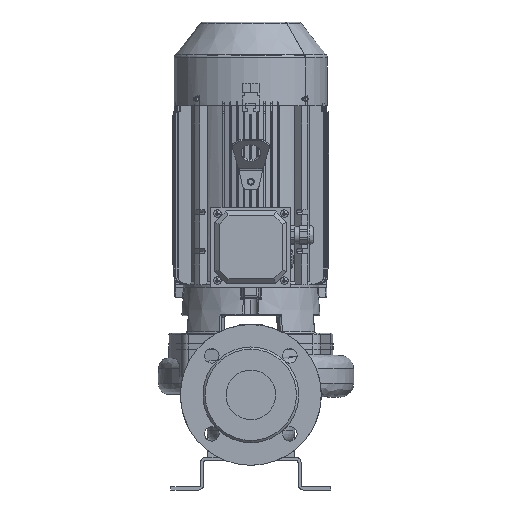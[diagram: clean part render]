
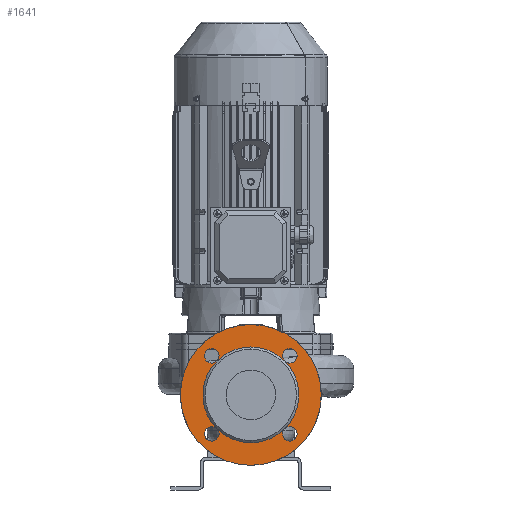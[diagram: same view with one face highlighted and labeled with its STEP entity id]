
A CAD part, front view. The second image highlights one B-rep face of the part: STEP entity #1641.
In plain terms, the highlighted planar face has unit normal (0, -1, 0) as drawn and (0, 1, 0) by its records, which use the part's own axes.
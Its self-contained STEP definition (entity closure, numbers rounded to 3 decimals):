
#1641=ADVANCED_FACE('',(#3239,#3240),#3241,.T.);
#1667=EDGE_CURVE('',#3281,#3282,#3283,.T.);
#1669=EDGE_CURVE('',#3285,#3281,#3286,.T.);
#1671=EDGE_CURVE('',#3288,#3285,#3289,.T.);
#1675=EDGE_CURVE('',#3295,#3296,#3297,.T.);
#1679=EDGE_CURVE('',#3303,#3304,#3305,.T.);
#1683=EDGE_CURVE('',#3311,#3312,#3313,.T.);
#1687=EDGE_CURVE('',#3319,#3320,#3321,.T.);
#1689=EDGE_CURVE('',#3323,#3324,#3325,.T.);
#1881=EDGE_CURVE('',#3324,#3323,#3620,.T.);
#1891=EDGE_CURVE('',#3285,#3319,#3630,.T.);
#1893=EDGE_CURVE('',#3320,#3285,#3632,.T.);
#1895=EDGE_CURVE('',#3281,#3311,#3634,.T.);
#1897=EDGE_CURVE('',#3312,#3281,#3636,.T.);
#1899=EDGE_CURVE('',#3638,#3303,#3639,.T.);
#1901=EDGE_CURVE('',#3304,#3638,#3641,.T.);
#1903=EDGE_CURVE('',#3643,#3295,#3644,.T.);
#1905=EDGE_CURVE('',#3296,#3643,#3646,.T.);
#1907=EDGE_CURVE('',#3282,#3638,#3648,.T.);
#1909=EDGE_CURVE('',#3638,#3643,#3650,.T.);
#1911=EDGE_CURVE('',#3643,#3288,#3652,.T.);
#3239=FACE_OUTER_BOUND('',#8588,.T.);
#3240=FACE_BOUND('',#8589,.T.);
#3241=PLANE('',#8590);
#3281=VERTEX_POINT('',#9228);
#3282=VERTEX_POINT('',#9229);
#3283=CIRCLE('',#9230,63.0);
#3285=VERTEX_POINT('',#9233);
#3286=CIRCLE('',#9234,63.0);
#3288=VERTEX_POINT('',#9237);
#3289=CIRCLE('',#9238,63.0);
#3295=VERTEX_POINT('',#9246);
#3296=VERTEX_POINT('',#9247);
#3297=CIRCLE('',#9248,9.5);
#3303=VERTEX_POINT('',#9256);
#3304=VERTEX_POINT('',#9257);
#3305=CIRCLE('',#9258,9.5);
#3311=VERTEX_POINT('',#9266);
#3312=VERTEX_POINT('',#9267);
#3313=CIRCLE('',#9268,9.5);
#3319=VERTEX_POINT('',#9276);
#3320=VERTEX_POINT('',#9277);
#3321=CIRCLE('',#9278,9.5);
#3323=VERTEX_POINT('',#9281);
#3324=VERTEX_POINT('',#9282);
#3325=CIRCLE('',#9283,92.5);
#3620=CIRCLE('',#9750,92.5);
#3630=CIRCLE('',#9765,9.5);
#3632=CIRCLE('',#9768,9.5);
#3634=CIRCLE('',#9771,9.5);
#3636=CIRCLE('',#9774,9.5);
#3638=VERTEX_POINT('',#9777);
#3639=CIRCLE('',#9778,9.5);
#3641=CIRCLE('',#9781,9.5);
#3643=VERTEX_POINT('',#9784);
#3644=CIRCLE('',#9785,9.5);
#3646=CIRCLE('',#9788,9.5);
#3648=CIRCLE('',#9791,63.0);
#3650=CIRCLE('',#9794,63.0);
#3652=CIRCLE('',#9797,63.0);
#8588=EDGE_LOOP('',(#16936,#16937));
#8589=EDGE_LOOP('',(#16938,#16939,#16940,#16941,#16942,#16943,#16944,#16945,#16946,#16947,#16948,#16949,#16950,#16951,#16952,#16953,#16954,#16955));
#8590=AXIS2_PLACEMENT_3D('',#16956,#16957,#16958);
#9228=CARTESIAN_POINT('',(44.548,165.,20.048));
#9229=CARTESIAN_POINT('',(0.,165.0,38.5));
#9230=AXIS2_PLACEMENT_3D('',#17048,#17049,#17050);
#9233=CARTESIAN_POINT('',(44.548,165.0,-69.048));
#9234=AXIS2_PLACEMENT_3D('',#17051,#17052,#17053);
#9237=CARTESIAN_POINT('',(0.,165.0,-87.5));
#9238=AXIS2_PLACEMENT_3D('',#17054,#17055,#17056);
#9246=CARTESIAN_POINT('',(-56.624,165.0,-67.921));
#9247=CARTESIAN_POINT('',(-45.906,165.0,-83.609));
#9248=AXIS2_PLACEMENT_3D('',#17060,#17061,#17062);
#9256=CARTESIAN_POINT('',(-43.421,165.,32.124));
#9257=CARTESIAN_POINT('',(-59.109,165.,21.406));
#9258=AXIS2_PLACEMENT_3D('',#17066,#17067,#17068);
#9266=CARTESIAN_POINT('',(56.624,165.,18.921));
#9267=CARTESIAN_POINT('',(45.906,165.,34.609));
#9268=AXIS2_PLACEMENT_3D('',#17072,#17073,#17074);
#9276=CARTESIAN_POINT('',(43.421,165.0,-81.124));
#9277=CARTESIAN_POINT('',(59.109,165.0,-70.406));
#9278=AXIS2_PLACEMENT_3D('',#17078,#17079,#17080);
#9281=CARTESIAN_POINT('',(0.,165.0,-117.0));
#9282=CARTESIAN_POINT('',(0.,165.0,68.0));
#9283=AXIS2_PLACEMENT_3D('',#17081,#17082,#17083);
#9750=AXIS2_PLACEMENT_3D('',#17329,#17330,#17331);
#9765=AXIS2_PLACEMENT_3D('',#17344,#17345,#17346);
#9768=AXIS2_PLACEMENT_3D('',#17347,#17348,#17349);
#9771=AXIS2_PLACEMENT_3D('',#17350,#17351,#17352);
#9774=AXIS2_PLACEMENT_3D('',#17353,#17354,#17355);
#9777=CARTESIAN_POINT('',(-44.548,165.,20.048));
#9778=AXIS2_PLACEMENT_3D('',#17356,#17357,#17358);
#9781=AXIS2_PLACEMENT_3D('',#17359,#17360,#17361);
#9784=CARTESIAN_POINT('',(-44.548,165.0,-69.048));
#9785=AXIS2_PLACEMENT_3D('',#17362,#17363,#17364);
#9788=AXIS2_PLACEMENT_3D('',#17365,#17366,#17367);
#9791=AXIS2_PLACEMENT_3D('',#17368,#17369,#17370);
#9794=AXIS2_PLACEMENT_3D('',#17371,#17372,#17373);
#9797=AXIS2_PLACEMENT_3D('',#17374,#17375,#17376);
#16936=ORIENTED_EDGE('',*,*,#1881,.F.);
#16937=ORIENTED_EDGE('',*,*,#1689,.F.);
#16938=ORIENTED_EDGE('',*,*,#1667,.T.);
#16939=ORIENTED_EDGE('',*,*,#1907,.T.);
#16940=ORIENTED_EDGE('',*,*,#1899,.T.);
#16941=ORIENTED_EDGE('',*,*,#1679,.T.);
#16942=ORIENTED_EDGE('',*,*,#1901,.T.);
#16943=ORIENTED_EDGE('',*,*,#1909,.T.);
#16944=ORIENTED_EDGE('',*,*,#1903,.T.);
#16945=ORIENTED_EDGE('',*,*,#1675,.T.);
#16946=ORIENTED_EDGE('',*,*,#1905,.T.);
#16947=ORIENTED_EDGE('',*,*,#1911,.T.);
#16948=ORIENTED_EDGE('',*,*,#1671,.T.);
#16949=ORIENTED_EDGE('',*,*,#1891,.T.);
#16950=ORIENTED_EDGE('',*,*,#1687,.T.);
#16951=ORIENTED_EDGE('',*,*,#1893,.T.);
#16952=ORIENTED_EDGE('',*,*,#1669,.T.);
#16953=ORIENTED_EDGE('',*,*,#1895,.T.);
#16954=ORIENTED_EDGE('',*,*,#1683,.T.);
#16955=ORIENTED_EDGE('',*,*,#1897,.T.);
#16956=CARTESIAN_POINT('',(0.,165.0,-102.25));
#16957=DIRECTION('',(0.0,1.0,0.0));
#16958=DIRECTION('',(0.0,0.0,1.0));
#17048=CARTESIAN_POINT('',(0.,165.0,-24.5));
#17049=DIRECTION('',(0.0,-1.0,0.0));
#17050=DIRECTION('',(0.,0.0,-1.0));
#17051=CARTESIAN_POINT('',(0.,165.0,-24.5));
#17052=DIRECTION('',(0.0,-1.0,0.0));
#17053=DIRECTION('',(0.,0.0,-1.0));
#17054=CARTESIAN_POINT('',(0.,165.0,-24.5));
#17055=DIRECTION('',(0.0,-1.0,0.0));
#17056=DIRECTION('',(0.,0.0,-1.0));
#17060=CARTESIAN_POINT('',(-51.265,165.0,-75.765));
#17061=DIRECTION('',(0.0,-1.0,0.0));
#17062=DIRECTION('',(-0.564,0.0,0.826));
#17066=CARTESIAN_POINT('',(-51.265,165.,26.765));
#17067=DIRECTION('',(0.0,-1.0,0.0));
#17068=DIRECTION('',(0.826,0.0,0.564));
#17072=CARTESIAN_POINT('',(51.265,165.,26.765));
#17073=DIRECTION('',(0.0,-1.0,0.0));
#17074=DIRECTION('',(0.564,0.0,-0.826));
#17078=CARTESIAN_POINT('',(51.265,165.0,-75.765));
#17079=DIRECTION('',(0.0,-1.0,-0.0));
#17080=DIRECTION('',(-0.826,0.0,-0.564));
#17081=CARTESIAN_POINT('',(0.,165.0,-24.5));
#17082=DIRECTION('',(0.0,-1.0,0.0));
#17083=DIRECTION('',(0.,0.0,-1.0));
#17329=CARTESIAN_POINT('',(0.,165.0,-24.5));
#17330=DIRECTION('',(0.0,-1.0,0.0));
#17331=DIRECTION('',(0.,0.0,-1.0));
#17344=CARTESIAN_POINT('',(51.265,165.0,-75.765));
#17345=DIRECTION('',(0.0,-1.0,-0.0));
#17346=DIRECTION('',(-0.826,0.0,-0.564));
#17347=CARTESIAN_POINT('',(51.265,165.0,-75.765));
#17348=DIRECTION('',(0.0,-1.0,-0.0));
#17349=DIRECTION('',(-0.826,0.0,-0.564));
#17350=CARTESIAN_POINT('',(51.265,165.,26.765));
#17351=DIRECTION('',(0.0,-1.0,0.0));
#17352=DIRECTION('',(0.564,0.0,-0.826));
#17353=CARTESIAN_POINT('',(51.265,165.,26.765));
#17354=DIRECTION('',(0.0,-1.0,0.0));
#17355=DIRECTION('',(0.564,0.0,-0.826));
#17356=CARTESIAN_POINT('',(-51.265,165.,26.765));
#17357=DIRECTION('',(0.0,-1.0,0.0));
#17358=DIRECTION('',(0.826,0.0,0.564));
#17359=CARTESIAN_POINT('',(-51.265,165.,26.765));
#17360=DIRECTION('',(0.0,-1.0,0.0));
#17361=DIRECTION('',(0.826,0.0,0.564));
#17362=CARTESIAN_POINT('',(-51.265,165.0,-75.765));
#17363=DIRECTION('',(0.0,-1.0,0.0));
#17364=DIRECTION('',(-0.564,0.0,0.826));
#17365=CARTESIAN_POINT('',(-51.265,165.0,-75.765));
#17366=DIRECTION('',(0.0,-1.0,0.0));
#17367=DIRECTION('',(-0.564,0.0,0.826));
#17368=CARTESIAN_POINT('',(0.,165.0,-24.5));
#17369=DIRECTION('',(0.0,-1.0,0.0));
#17370=DIRECTION('',(0.,0.0,-1.0));
#17371=CARTESIAN_POINT('',(0.,165.0,-24.5));
#17372=DIRECTION('',(0.0,-1.0,0.0));
#17373=DIRECTION('',(0.,0.0,-1.0));
#17374=CARTESIAN_POINT('',(0.,165.0,-24.5));
#17375=DIRECTION('',(0.0,-1.0,0.0));
#17376=DIRECTION('',(0.,0.0,-1.0));
